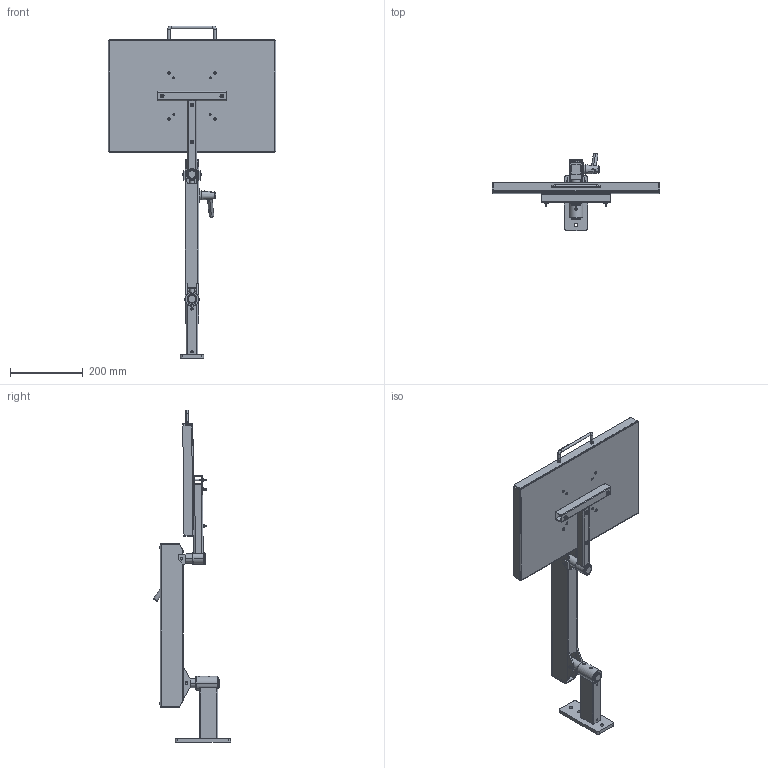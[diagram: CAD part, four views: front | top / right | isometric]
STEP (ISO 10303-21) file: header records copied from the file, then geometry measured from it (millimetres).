
FILE_DESCRIPTION (( 'STEP AP203' ), '1' );
FILE_NAME ('70-0743-00 REV AA, 13.5in FLEX SYSTEM, TOOL TRAY, WALL MOUNT W EXT - EXTENDED FLAT.STEP', '2025-09-17T22:48:49', ( '' ), ( '' ), 'SwSTEP 2.0', 'SolidWorks 2025', '' );
FILE_SCHEMA (( 'CONFIG_CONTROL_DESIGN' ));
Length unit declared in the file: inch
Products named in the file (52): 71-1300-RX REV AA, HOUSING, 13.5in FLEX; 71-0071-RX REV AA, AXLE PIN, LONG; 71-1051-RX REV AA, SPRING BLOCK; 71-0013-RX REV AA, HOUSING, BEARING, SHORT_MACHINE; 71-1301-BLKX REV AA, FLEX HOUSING, 13.5in, BLACK_Weld; 71-0038-RX REV AA, PIVOT, KNUCKLE, ELECTROLESS NICKEL; 006-059-00; 025-067-00, HANDLE, U SHAPED, 8-32; 007-031-00_007-031-00; 016-007-00, OILITE PLUS BEARING, 0.876 id x 1.002 od x 0.75 lg; 71-0031-RX REV AA, KNUCKLE, MOUNT_MACHINE; 11-0450-00 REV AA, FOAM, YELLOW, 18x12; 71-0052-RX REV AA, HOUSING, T AND STRAIGHT BAR CROSS SECTION_MACHINE; 016-008-00, OILITE PLUS BEARING, 0.876 id x 1.002 od x 1.25 lg; 70-0743-00 REV AA, 13.5in FLEX SYSTEM, TOOL TRAY, WALL MOUNT W EXT - EXTENDED FLAT; 71-0217-RX REV AA, PLATE, NARROW WALL MOUNT_Laser; 71-1032-RX REV AA, SPRING ROD, 13.5in FLEX; 011-033-00; 005-084-00, BOLT, 1''4-20x2.75; 11-0650-00 REV AA, BRAKE HANDLE ASSEMBLY; 71-0030-RX REV AA, KNUCKLE, LOAD_MACHINE; 013-036-00, SPRING, GREEN, 1x8_ISO425203; 71-0028-RX REV AA, TAB, MOUNT_MACHINE; 002-041-00_002-041-00; 71-0037-RX REV AA, PIVOT, THREADED; 71-1033-RX REV AA, BOLT, ADJUSTING, 10.9; 70-0050-00 REV AA, T BAR; 71-0091-RX REV AA, HOUSING, WALL MOUNT, 6in EXTENSION; 71-0047-RX REV AA, HOUSING, T AND STRAIGHT BAR_MACHINE; 70-0401-00 REV AA, 18x12 SUPPORT TRAY ASSEMBLY; 006-008-00, NUT, HEX, 10-32 x .125_006-008-00; 70-0095-00 REV AA, STUD MOUNT, 6in EXT; 71-0972-99 REV AA, END CAP, FLEX; 70-1343-00 REV AA, FLEX SECTION, 13.5in, 18-43 LB; 11-0602-RX REV AA, HANDLE, BRAKE ASSEMBLY; 007-036-00, SHSS, 1''4-28, .25L_007-036-00; 11-0401-00 REV AA, 18x12 TOOL TRAY, BLACK; 016-070-00, BEARING, PLASTIC, .5ID x .625 OD x .75; 71-2113-RX REV AA, HOUSING, BEARING, TALL, 1.5OD_MACHINE; 010-012-00, RETAINING RING, EXTERNAL, .875in SHAFT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
Assembly tree (80 placements, depth 4):
  70-0743-00 REV AA, 13.5in FLEX SYSTEM, TOOL TRAY, WALL MOUNT W EXT - EXTENDED FLAT
    70-0095-00 REV AA, STUD MOUNT, 6in EXT
      71-0217-RX REV AA, PLATE, NARROW WALL MOUNT_Laser
      71-0091-RX REV AA, HOUSING, WALL MOUNT, 6in EXTENSION
      71-2113-RX REV AA, HOUSING, BEARING, TALL, 1.5OD_MACHINE
      016-007-00, OILITE PLUS BEARING, 0.876 id x 1.002 od x 0.75 lg
      016-008-00, OILITE PLUS BEARING, 0.876 id x 1.002 od x 1.25 lg
      007-036-00, SHSS, 1''4-28, .25L_007-036-00
    70-0401-00 REV AA, 18x12 SUPPORT TRAY ASSEMBLY
      11-0401-00 REV AA, 18x12 TOOL TRAY, BLACK
      70-0050-00 REV AA, T BAR
        71-0047-RX REV AA, HOUSING, T AND STRAIGHT BAR_MACHINE
        71-0013-RX REV AA, HOUSING, BEARING, SHORT_MACHINE
        71-0052-RX REV AA, HOUSING, T AND STRAIGHT BAR CROSS SECTION_MACHINE
        016-008-00, OILITE PLUS BEARING, 0.876 id x 1.002 od x 1.25 lg
        007-031-00_007-031-00
      002-091-00, FHSCS, 10-32x1.5, BO_002-091-00  x4
      006-008-00, NUT, HEX, 10-32 x .125_006-008-00  x4
      025-067-00, HANDLE, U SHAPED, 8-32
      002-100-00, BHSCS, 8-32x.375_002-100-00  x2
      11-0450-00 REV AA, FOAM, YELLOW, 18x12
    70-1343-00 REV AA, FLEX SECTION, 13.5in, 18-43 LB
      71-0031-RX REV AA, KNUCKLE, MOUNT_MACHINE
      71-1032-RX REV AA, SPRING ROD, 13.5in FLEX
      71-0030-RX REV AA, KNUCKLE, LOAD_MACHINE
      71-0038-RX REV AA, PIVOT, KNUCKLE, ELECTROLESS NICKEL
      71-1033-RX REV AA, BOLT, ADJUSTING, 10.9
      71-0037-RX REV AA, PIVOT, THREADED
      71-0040-RX REV AA, BRAKE BLOCK, WIDE_MACHINE
      71-1051-RX REV AA, SPRING BLOCK
      71-1301-BLKX REV AA, FLEX HOUSING, 13.5in, BLACK_Weld
        71-1300-RX REV AA, HOUSING, 13.5in FLEX
        71-0029-RX REV AA, TAB, LOAD  x2
        71-0028-RX REV AA, TAB, MOUNT_MACHINE  x2
      71-0070-RX REV AA, AXLE PIN, SHORT
      71-0071-RX REV AA, AXLE PIN, LONG
      71-0972-99 REV AA, END CAP, FLEX  x2
      11-0027-RX REV AA, PLASTIC DISC, BRAKE ASSEMBLY_MACHINE
      11-0650-00 REV AA, BRAKE HANDLE ASSEMBLY
        11-0601-99 REV AA, CONICAL KNOB, BRAKE ASSEMBLY
        11-0602-RX REV AA, HANDLE, BRAKE ASSEMBLY
        11-0027-RX REV AA, PLASTIC DISC, BRAKE ASSEMBLY_MACHINE
        005-084-00, BOLT, 1''4-20x2.75
      006-004-00_006-004-00  x2
      002-041-00_002-041-00  x2
      010-012-00, RETAINING RING, EXTERNAL, .875in SHAFT  x2
      010-011-00, RETAINING RING, EXT, .250 SHAFT_010-011-00  x4
      011-033-00
      004-050-00, WASHER, FIBER, .032 THK, .265ID  x8
      011-020-00 REV AA, PIN, KNURLED, 1.0LG x .25OD  x2
      004-144-00  x3
      006-059-00
      013-036-00, SPRING, GREEN, 1x8_ISO425203
      016-070-00, BEARING, PLASTIC, .5ID x .625 OD x .75  x2
Bounding box: 461.77 x 212.15 x 913.75 mm (x, y, z)
Volume: 1632273.5 mm3; surface area: 1131969.3 mm2
Topology: 76 solids, 76 shells, 2048 faces, 4981 edges, 3079 vertices
Faces by surface type: cylinder 908, plane 567, cone 418, torus 89, bspline 56, sphere 10
Entity records: 90184 total; most frequent: CARTESIAN_POINT 54446, ORIENTED_EDGE 6194, DIRECTION 6101, EDGE_CURVE 3097, AXIS2_PLACEMENT_3D 2356, VERTEX_POINT 1925, EDGE_LOOP 1422, LINE 1389
